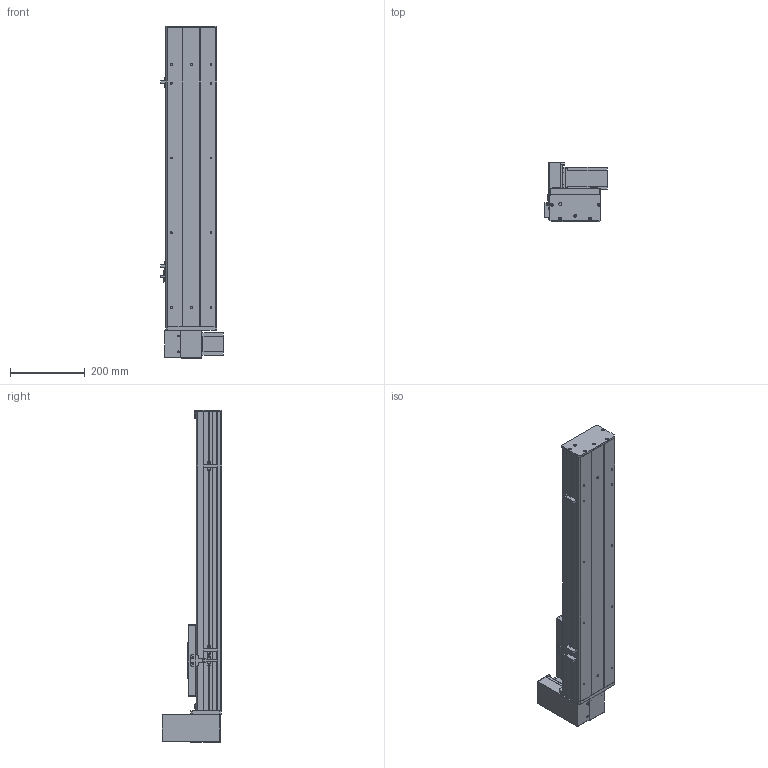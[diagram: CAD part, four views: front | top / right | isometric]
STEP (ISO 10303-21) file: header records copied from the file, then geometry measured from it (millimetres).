
FILE_DESCRIPTION (( 'STEP AP203' ), '1' );
FILE_NAME ('Y135CB-D90-S500-UR-P400W.STEP', '2020-02-18T03:54:16', ( '微软用户' ), ( '微软中国' ), 'SwSTEP 2.0', 'SolidWorks 2017', '' );
FILE_SCHEMA (( 'CONFIG_CONTROL_DESIGN' ));
Length unit declared in the file: millimetre
Products named in the file (18): Y135C-陔俋离換覜結え-; 0B-埴倛裔啣; 5C--俋欶; 0B-源倛裔啣; C-雄赽釱--; 0B-萇儂楊擘啣; Y10B--々湍喘謫眊--666; san松下电机400不带刹车----; Y10B-耜蚾蟀諉啣----; 5CB --掛极耜裔啣-; 00B-俋欶BM--; C-詩湍揤踡え-陔; Y135CB-耜裔; Y135CB-D90-S500-UR-P400W; 135CB--詩湍-CE; 135CB---遴掛极.-; Y100-135俋离換覜ん--; 35CB---喘謫眊楊擘啣
Assembly tree (21 placements, depth 2):
  Y135CB-D90-S500-UR-P400W
    Y135CB-耜裔
    135CB---遴掛极.-
    35CB---喘謫眊楊擘啣
    0B-埴倛裔啣
    0B-源倛裔啣
    0B-萇儂楊擘啣
    san松下电机400不带刹车----
    5CB --掛极耜裔啣-  x2
    C-詩湍揤踡え-陔  x2
    135CB--詩湍-CE
    Y100-135俋离換覜ん--  x3
    Y135C-陔俋离換覜結え-
    5C--俋欶
    C-雄赽釱--
    Y10B--々湍喘謫眊--666
    Y10B-耜蚾蟀諉啣----
    00B-俋欶BM--
Bounding box: 167.5 x 158.7 x 888 mm (x, y, z)
Volume: 3087883.2 mm3; surface area: 1195010.7 mm2
Topology: 21 solids, 21 shells, 937 faces, 2491 edges, 1650 vertices
Faces by surface type: cylinder 465, plane 456, cone 16
Entity records: 28945 total; most frequent: DIRECTION 4807, CARTESIAN_POINT 4724, ORIENTED_EDGE 4458, EDGE_CURVE 2229, AXIS2_PLACEMENT_3D 1749, VERTEX_POINT 1478, LINE 1309, VECTOR 1309
